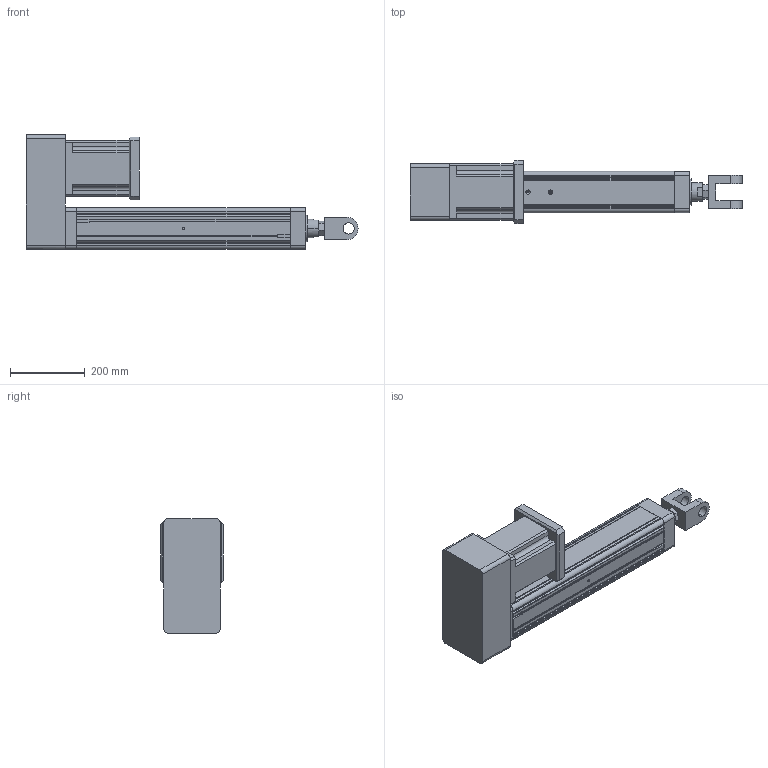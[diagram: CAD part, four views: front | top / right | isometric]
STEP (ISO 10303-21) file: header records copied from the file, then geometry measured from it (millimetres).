
FILE_DESCRIPTION (( 'STEP AP203' ), '1' );
FILE_NAME ('YRJ110-L400-H1K4.STEP', '2020-01-04T05:58:48', ( 'User' ), ( 'China' ), 'SwSTEP 2.0', 'SolidWorks 2016', '' );
FILE_SCHEMA (( 'CONFIG_CONTROL_DESIGN' ));
Length unit declared in the file: millimetre
Products named in the file (7): H1-110-1; H1-110-2; 萇儂碟-110; 142熬厒儂; K4-110; YRJ110-L400-H1K4; 095-100俴最倰第
Assembly tree (6 placements, depth 2):
  YRJ110-L400-H1K4
    095-100俴最倰第
    H1-110-1
    H1-110-2
    萇儂碟-110
    142熬厒儂
    K4-110
Bounding box: 886 x 168 x 305.5 mm (x, y, z)
Volume: 12420275.5 mm3; surface area: 1013849.1 mm2
Topology: 6 solids, 6 shells, 331 faces, 908 edges, 581 vertices
Faces by surface type: plane 176, cylinder 120, cone 35
Entity records: 11402 total; most frequent: CARTESIAN_POINT 2145, DIRECTION 1797, ORIENTED_EDGE 1768, EDGE_CURVE 884, VECTOR 607, LINE 607, AXIS2_PLACEMENT_3D 595, VERTEX_POINT 581
